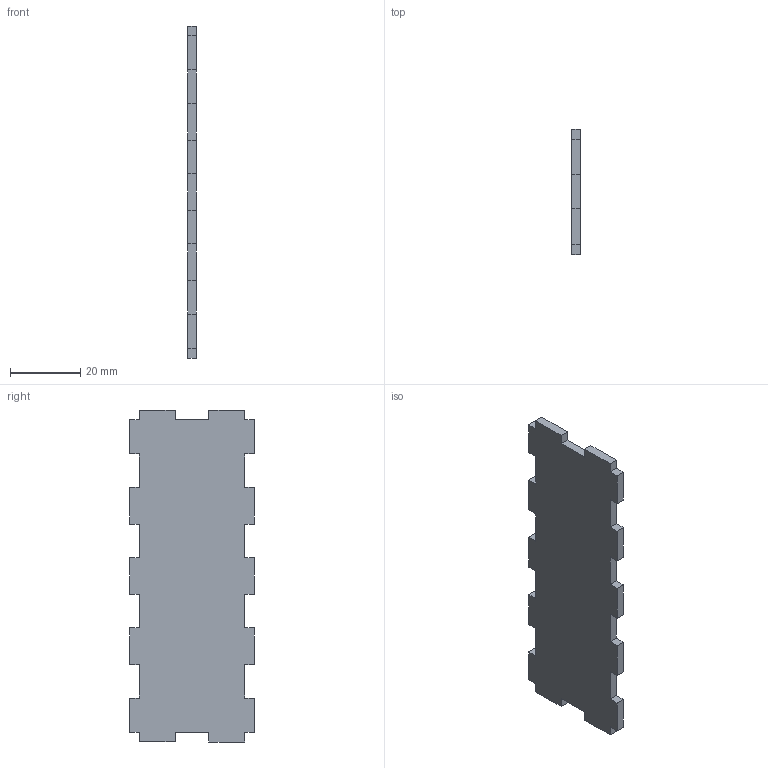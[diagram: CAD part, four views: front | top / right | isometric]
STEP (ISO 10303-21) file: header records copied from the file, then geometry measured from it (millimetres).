
FILE_DESCRIPTION (( 'STEP AP214' ), '1' );
FILE_NAME ('shortsideboxie.STEP', '2025-06-15T00:40:39', ( '' ), ( '' ), 'SwSTEP 2.0', 'SolidWorks 2024', '' );
FILE_SCHEMA (( 'AUTOMOTIVE_DESIGN' ));
Length unit declared in the file: millimetre
Products named in the file (1): shortsideboxie
Bounding box: 2.5 x 35.6 x 94.6 mm (x, y, z)
Volume: 7672.5 mm3; surface area: 6929 mm2
Topology: 1 solids, 1 shells, 54 faces, 156 edges, 104 vertices
Faces by surface type: plane 54
Entity records: 1763 total; most frequent: CARTESIAN_POINT 315, ORIENTED_EDGE 312, DIRECTION 266, VECTOR 156, LINE 156, EDGE_CURVE 156, VERTEX_POINT 104, AXIS2_PLACEMENT_3D 55
